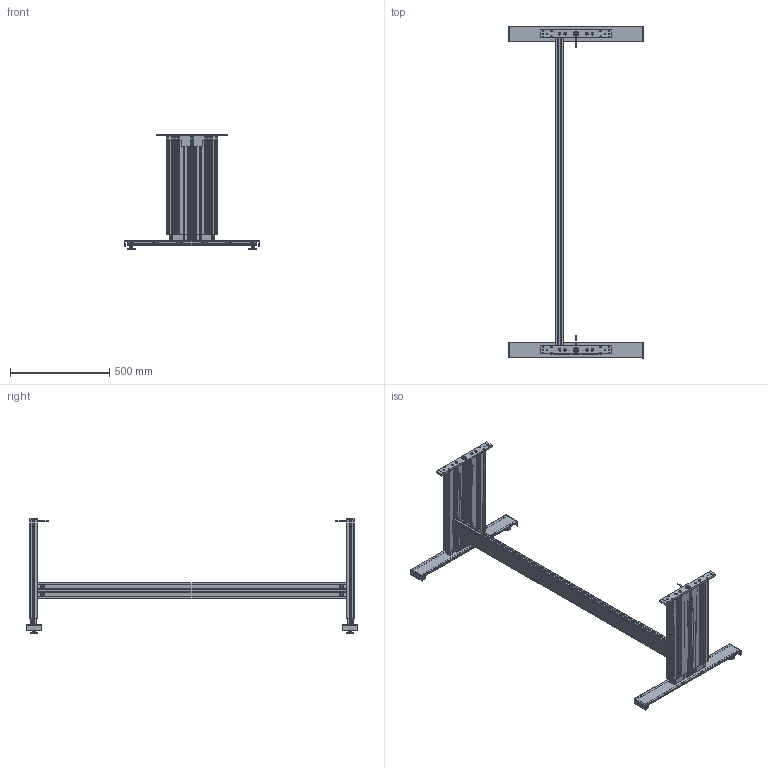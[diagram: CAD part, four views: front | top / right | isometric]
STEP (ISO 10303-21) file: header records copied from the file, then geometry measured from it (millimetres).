
FILE_DESCRIPTION(/* description */ ('Unknown'),/* implementation_level */ '2;1');
FILE_NAME(/* name */ '108.00463 Untergestell TT-2 1830 1590_eingefahren',/* time_stamp */ '2017-12-04T15:34:01+01:00',/* author */ ('Unknown'),/* organization */ ('Unknown'),/* preprocessor_version */ 'ST-DEVELOPER v16.7',/* originating_system */ 'DEX',/* authorisation */ $);
FILE_SCHEMA (('AUTOMOTIVE_DESIGN {1 0 10303 214 3 1 1}'));
Products named in the file (30): 108.00463; 106.00383_oa_0; 119.00203; 119.00154; 142.00188; 142.00166; 142.00031; 126.00102; 109.00024_oa_1; 115.00008_oa_2; 125.00063; 142.00021; 125.00021; 113.00002_70mm; 106.00383_oa_3; 109.00024_oa_4; 115.00008_oa_5; 115.00094; 119.00174; 142.00207; 127.00515; 127.00520; 127.00556; 127.00557; 127.00520_461_469_Kehlnaht 1_oa_6; 113.00095; 113.00099; 113.00096; 113.00097; 113.00098
Assembly tree (52 placements, depth 5):
  108.00463
    106.00383_oa_0
      119.00203
      119.00154
      142.00188  x2
      142.00166  x4
      142.00031
      126.00102
      109.00024_oa_1
        115.00008_oa_2
        125.00063
        142.00021
        125.00021
      113.00002_70mm
    106.00383_oa_3
      119.00203
      119.00154
      142.00188  x2
      142.00166  x4
      142.00031
      126.00102
      109.00024_oa_4
        115.00008_oa_5
        125.00063
        142.00021
        125.00021
      113.00002_70mm
    115.00094
      119.00174
      142.00207  x4
    127.00515  x2
      127.00520
        127.00556
        127.00557
        127.00520_461_469_Kehlnaht 1_oa_6
      113.00095
        113.00099
        113.00096
          113.00097
          113.00098
Bounding box: 680 x 1670 x 583.5 mm (x, y, z)
Volume: 7100549.8 mm3; surface area: 5023883.4 mm2
Topology: 73 solids, 81 shells, 4884 faces, 13898 edges, 9236 vertices
Faces by surface type: plane 3036, cylinder 1548, cone 194, torus 72, bspline 24, sphere 10
Full cylindrical faces by diameter (mm): 1.8 x4, 2.2 x2, 2.99 x2, 3.242 x4, 3.5 x2, 4 x6, 4.1 x2, 4.2 x2, 5 x12, 5.5 x8, 6.6 x8, 6.647 x16, 6.917 x4, 7.5 x4, 8 x16, 8.376 x6, 8.5 x20, 8.7 x8, 10 x8, 11.3 x8, 12 x4, 12.5 x10, 13 x4, 13.5 x6, 13.7 x2, 14.4 x2, 17.9 x4, 18 x16, 25 x10, 27.2 x4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
Entity records: 85317 total; most frequent: CARTESIAN_POINT 14590, ORIENTED_EDGE 13064, DIRECTION 12703, EDGE_CURVE 6532, LINE 4481, VECTOR 4481, VERTEX_POINT 4423, AXIS2_PLACEMENT_3D 4111
